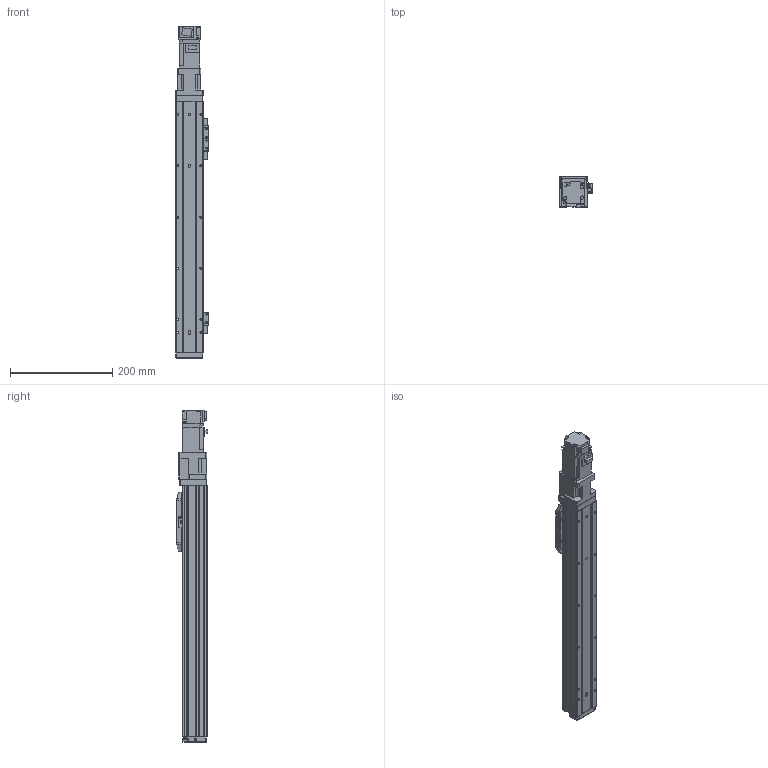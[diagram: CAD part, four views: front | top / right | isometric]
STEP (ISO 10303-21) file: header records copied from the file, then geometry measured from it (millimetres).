
FILE_DESCRIPTION (( 'STEP AP214' ), '1' );
FILE_NAME ('N_GRH5-350-BC-M10.step', '2025-03-14T09:33:57', ( '' ), ( '' ), 'SwSTEP 2.0', 'SolidWorks 2016', '' );
FILE_SCHEMA (( 'AUTOMOTIVE_DESIGN' ));
Length unit declared in the file: millimetre
Products named in the file (5): N_GRH5-350-BC-M10; N_GRH5-BC-008^N_GRH5-350-BC-M10; N_GRH5-GY-004^N_GRH5-350-BC-M10; N_GRH5-GY-011^N_GRH5-350-BC-M10; HF-KP13_100W_Motor^N_GRH5-350-BC-M10
Assembly tree (4 placements, depth 2):
  N_GRH5-350-BC-M10
    N_GRH5-GY-011^N_GRH5-350-BC-M10
    N_GRH5-GY-004^N_GRH5-350-BC-M10
    N_GRH5-BC-008^N_GRH5-350-BC-M10
    HF-KP13_100W_Motor^N_GRH5-350-BC-M10
Bounding box: 64.05 x 60.7 x 647.9 mm (x, y, z)
Volume: 1102154.9 mm3; surface area: 291371.9 mm2
Topology: 4 solids, 5 shells, 924 faces, 2390 edges, 1519 vertices
Faces by surface type: plane 552, cylinder 312, cone 58, sphere 2
Entity records: 34542 total; most frequent: CARTESIAN_POINT 4876, DIRECTION 4865, ORIENTED_EDGE 4708, EDGE_CURVE 2354, LINE 1669, VECTOR 1669, AXIS2_PLACEMENT_3D 1598, VERTEX_POINT 1517
